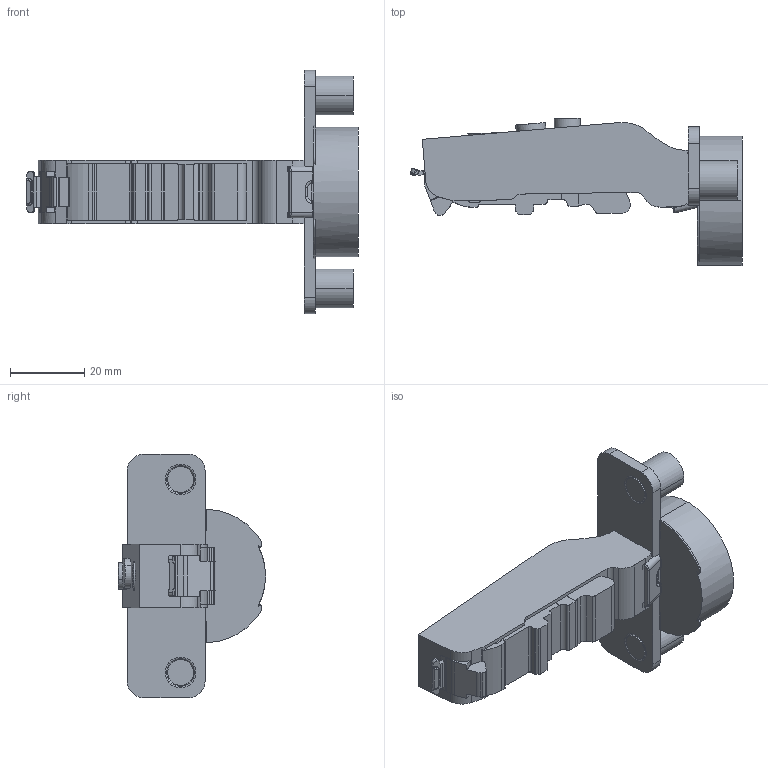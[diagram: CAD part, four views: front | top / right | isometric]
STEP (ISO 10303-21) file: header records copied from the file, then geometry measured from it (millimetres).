
FILE_DESCRIPTION (( 'STEP AP203' ), '1' );
FILE_NAME ('C81A877MFAB DTC 3D CLOSE.STEP', '2024-07-18T07:26:42', ( '微软用户' ), ( '微软中国' ), 'SwSTEP 2.0', 'SolidWorks 2021', '' );
FILE_SCHEMA (( 'CONFIG_CONTROL_DESIGN' ));
Length unit declared in the file: millimetre
Products named in the file (1): C81A877MFAB DTC 3D CLOSE
Bounding box: 89.46 x 39.64 x 65.6 mm (x, y, z)
Volume: 40837.7 mm3; surface area: 12063.5 mm2
Topology: 1 solids, 2 shells, 357 faces, 1038 edges, 685 vertices
Faces by surface type: plane 172, cylinder 126, bspline 31, torus 24, cone 4
Entity records: 13208 total; most frequent: CARTESIAN_POINT 3787, ORIENTED_EDGE 2076, DIRECTION 1847, EDGE_CURVE 1038, VERTEX_POINT 685, AXIS2_PLACEMENT_3D 624, LINE 599, VECTOR 599
